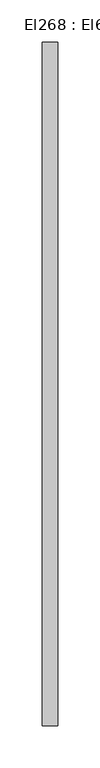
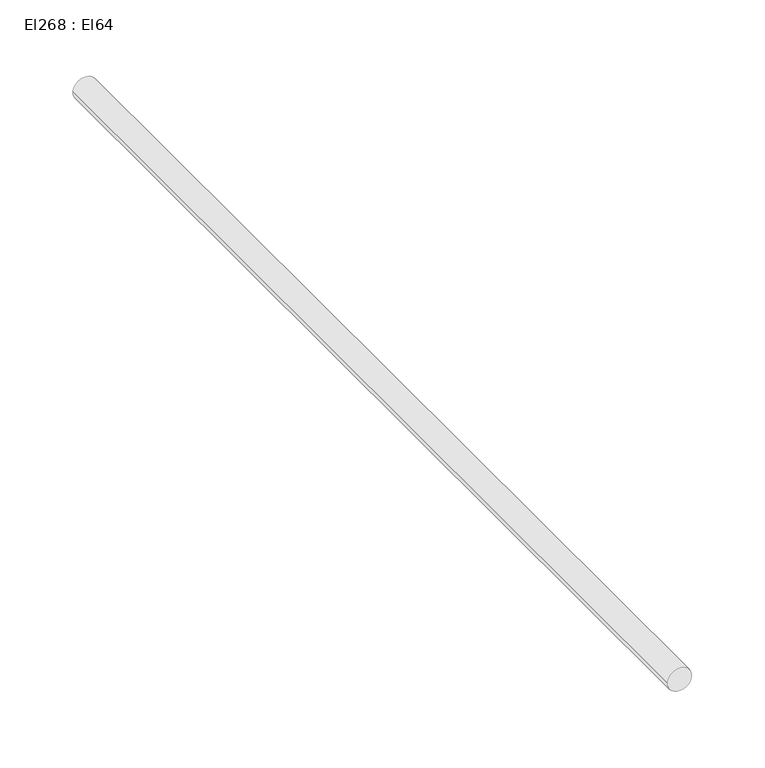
"""IFC4 building model written with IfcOpenShell, lengths in millimetres: cable carrier segment geometry, El268 : El64."""

from ifc_helpers import new_model, si_unit, point, frame, frame_2d, origin, place, context, project, spatial, circle_curve, trimmed, segment, composite_curve, outline, extrude, source, transform, mapped, element, save


def el268_el64_99c406b5(model_context):
    return source(origin(), model_context, "Body", "SweptSolid", [
        extrude(outline(composite_curve([segment(trimmed(circle_curve(frame_2d((2700.0, 11764.4746511)), 9.5), [point((2700.0, 11754.9746511))], [point((2700.0, 11773.9746511))], False, "CARTESIAN"), True, "CONTINUOUS"), segment(trimmed(circle_curve(frame_2d((2700.0, 11764.4746511)), 9.5), [point((2700.0, 11773.9746511))], [point((2700.0, 11754.9746511))], False, "CARTESIAN"), True, "CONTINUOUS")], self_intersect=False)), frame((0.0, 7348.8321745, 0.0), z_axis=(0.0, 1.0, 0.0), x_axis=(0.0, 0.0, 1.0)), (0.0, 0.0, 1.0), 813.961),
    ])


if __name__ == "__main__":
    model = new_model("IFC4")
    model_context = context("Model", 3, world=origin())
    ifc_project = project(units=[si_unit("LENGTHUNIT", "METRE", prefix="MILLI")], contexts=[model_context])
    site = spatial("IfcSite", under=ifc_project)
    building = spatial("IfcBuilding", under=site)
    placement = place(None, origin())
    el268_el64_shape = el268_el64_99c406b5(model_context)
    element("IfcCableCarrierSegment", 1, ObjectType="El268 : El64", at=placement, inside=building, context=model_context, shape_type="MappedRepresentation", body=[
        mapped(el268_el64_shape, transform((0.0, 0.0, 0.0), x_axis=(1.0, 0.0, 0.0), y_axis=(0.0, 1.0, 0.0), z_axis=(0.0, 0.0, 1.0))),
    ])
    save(model, "model.ifc")
